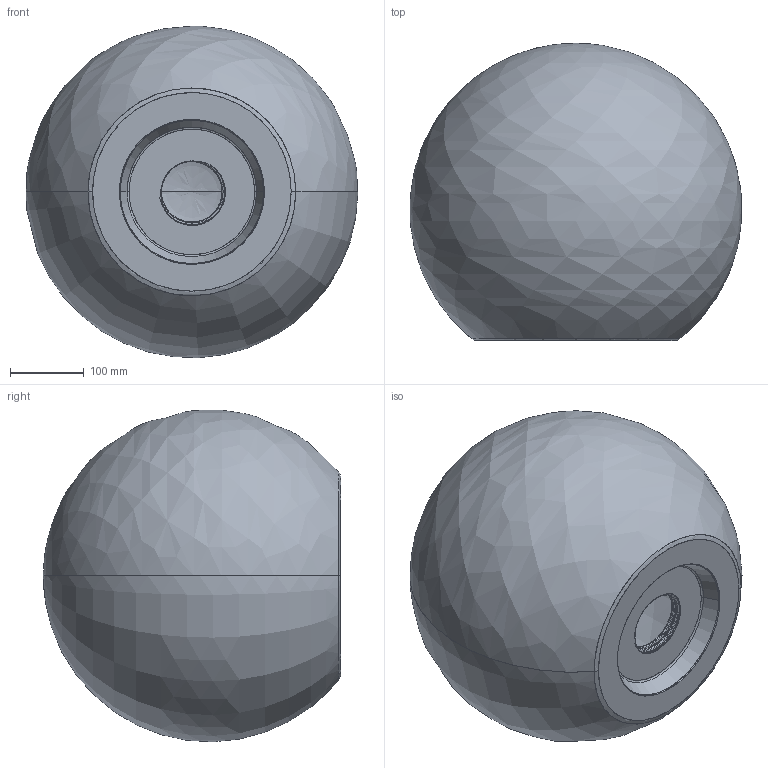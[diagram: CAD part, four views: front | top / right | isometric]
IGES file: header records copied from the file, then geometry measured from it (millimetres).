
Start section: SolidWorks IGES file using analytic representation for surfaces
Global section: file name: G:\kulki\450GWINT.IGS; native system: SolidWorks 2014; preprocessor: SolidWorks 2014; author: ｣ukasz Jaworski; date: 151110.150858; units: millimetre
Bounding box: 449.54 x 402.73 x 449.26 mm (x, y, z)
Surface area: 1249359.6 mm2 (no closed solid volume)
Topology: 0 solids, 0 shells, 52 faces, 1463 edges, 1573 vertices
Faces by surface type: bspline 38, revolution 14
